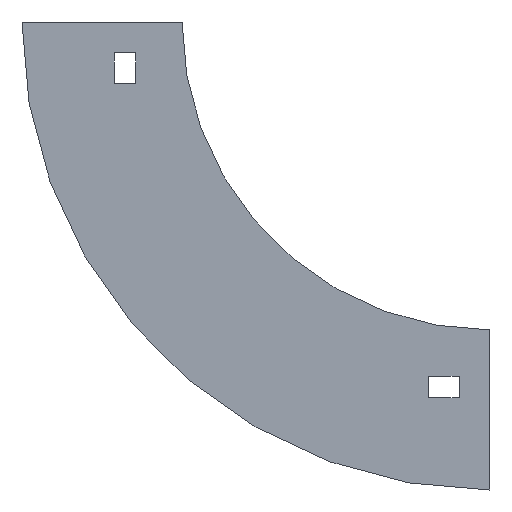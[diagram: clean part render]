
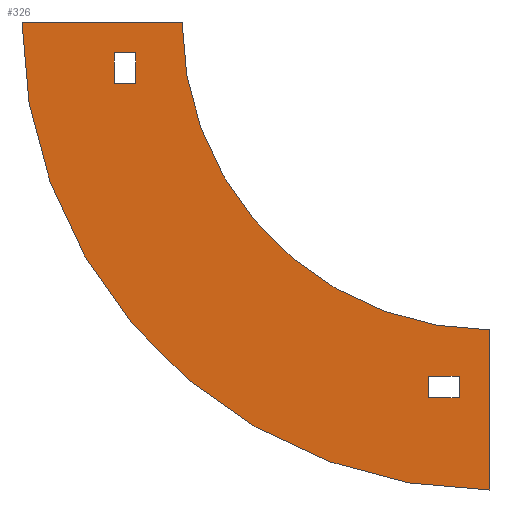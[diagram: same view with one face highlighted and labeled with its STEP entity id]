
A CAD part, left-side view. The second image highlights one B-rep face of the part: STEP entity #326.
In plain terms, the highlighted planar face has unit normal (-1, 0, 0).
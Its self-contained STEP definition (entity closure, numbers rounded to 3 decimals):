
#9 = VECTOR ( 'NONE', #840, 1000. ) ;
#11 = CARTESIAN_POINT ( 'NONE',  ( -202., -100., -100. ) ) ;
#15 = CARTESIAN_POINT ( 'NONE',  ( -202., -90., -122. ) ) ;
#16 = DIRECTION ( 'NONE',  ( 0., 0., -1. ) ) ;
#26 = DIRECTION ( 'NONE',  ( -1., 0., 0. ) ) ;
#27 = VERTEX_POINT ( 'NONE', #11 ) ;
#29 = VECTOR ( 'NONE', #648, 1000. ) ;
#35 = EDGE_CURVE ( 'NONE', #27, #87, #369, .T. ) ;
#48 = CIRCLE ( 'NONE', #994, 100. ) ;
#58 = CARTESIAN_POINT ( 'NONE',  ( -202., 22., -20. ) ) ;
#59 = VERTEX_POINT ( 'NONE', #1084 ) ;
#77 = CARTESIAN_POINT ( 'NONE',  ( -202., -100., 0. ) ) ;
#78 = EDGE_LOOP ( 'NONE', ( #847, #1072, #1042, #937 ) ) ;
#79 = EDGE_CURVE ( 'NONE', #138, #323, #990, .T. ) ;
#87 = VERTEX_POINT ( 'NONE', #479 ) ;
#92 = CARTESIAN_POINT ( 'NONE',  ( -202., -80., -115. ) ) ;
#95 = VERTEX_POINT ( 'NONE', #661 ) ;
#105 = CARTESIAN_POINT ( 'NONE',  ( -202., -80., -122. ) ) ;
#109 = CARTESIAN_POINT ( 'NONE',  ( -202., 52., 0. ) ) ;
#110 = LINE ( 'NONE', #641, #912 ) ;
#121 = DIRECTION ( 'NONE',  ( 0., -1., 0. ) ) ;
#124 = EDGE_CURVE ( 'NONE', #183, #267, #297, .T. ) ;
#135 = VECTOR ( 'NONE', #497, 1000. ) ;
#138 = VERTEX_POINT ( 'NONE', #389 ) ;
#144 = CARTESIAN_POINT ( 'NONE',  ( -202., 15., -10. ) ) ;
#162 = DIRECTION ( 'NONE',  ( 1., 0., 0. ) ) ;
#163 = ORIENTED_EDGE ( 'NONE', *, *, #532, .F. ) ;
#167 = ORIENTED_EDGE ( 'NONE', *, *, #238, .F. ) ;
#182 = CARTESIAN_POINT ( 'NONE',  ( -202., -90., -115. ) ) ;
#183 = VERTEX_POINT ( 'NONE', #58 ) ;
#184 = FACE_BOUND ( 'NONE', #78, .T. ) ;
#199 = DIRECTION ( 'NONE',  ( 0., 0., 1. ) ) ;
#210 = AXIS2_PLACEMENT_3D ( 'NONE', #953, #162, #426 ) ;
#223 = VECTOR ( 'NONE', #1009, 1000. ) ;
#238 = EDGE_CURVE ( 'NONE', #992, #975, #784, .T. ) ;
#240 = CARTESIAN_POINT ( 'NONE',  ( -202., 22., -20. ) ) ;
#243 = VECTOR ( 'NONE', #16, 1000. ) ;
#248 = ORIENTED_EDGE ( 'NONE', *, *, #873, .F. ) ;
#257 = DIRECTION ( 'NONE',  ( -1., 0., 0. ) ) ;
#267 = VERTEX_POINT ( 'NONE', #714 ) ;
#270 = CARTESIAN_POINT ( 'NONE',  ( -202., 0., 0. ) ) ;
#280 = VERTEX_POINT ( 'NONE', #15 ) ;
#296 = CARTESIAN_POINT ( 'NONE',  ( -202., -90., -115. ) ) ;
#297 = LINE ( 'NONE', #578, #223 ) ;
#323 = VERTEX_POINT ( 'NONE', #270 ) ;
#326 = ADVANCED_FACE ( 'NONE', ( #184, #539, #719 ), #619, .T. ) ;
#328 = CARTESIAN_POINT ( 'NONE',  ( -202., -90., -122. ) ) ;
#335 = LINE ( 'NONE', #328, #9 ) ;
#369 = LINE ( 'NONE', #1005, #243 ) ;
#389 = CARTESIAN_POINT ( 'NONE',  ( -202., 52., 0. ) ) ;
#400 = ORIENTED_EDGE ( 'NONE', *, *, #540, .F. ) ;
#426 = DIRECTION ( 'NONE',  ( 0., 0., 1. ) ) ;
#433 = CIRCLE ( 'NONE', #210, 152. ) ;
#457 = EDGE_CURVE ( 'NONE', #975, #280, #335, .T. ) ;
#479 = CARTESIAN_POINT ( 'NONE',  ( -202., -100., -152. ) ) ;
#497 = DIRECTION ( 'NONE',  ( 0., 0., -1. ) ) ;
#521 = ORIENTED_EDGE ( 'NONE', *, *, #79, .F. ) ;
#532 = EDGE_CURVE ( 'NONE', #852, #992, #655, .T. ) ;
#534 = ORIENTED_EDGE ( 'NONE', *, *, #35, .F. ) ;
#539 = FACE_OUTER_BOUND ( 'NONE', #664, .T. ) ;
#540 = EDGE_CURVE ( 'NONE', #280, #852, #572, .T. ) ;
#571 = LINE ( 'NONE', #144, #135 ) ;
#572 = LINE ( 'NONE', #577, #807 ) ;
#577 = CARTESIAN_POINT ( 'NONE',  ( -202., -90., -122. ) ) ;
#578 = CARTESIAN_POINT ( 'NONE',  ( -202., 22., -10. ) ) ;
#619 = PLANE ( 'NONE',  #710 ) ;
#641 = CARTESIAN_POINT ( 'NONE',  ( -202., 22., -10. ) ) ;
#647 = EDGE_LOOP ( 'NONE', ( #163, #400, #1006, #167 ) ) ;
#648 = DIRECTION ( 'NONE',  ( 0., 1., 0. ) ) ;
#655 = LINE ( 'NONE', #296, #29 ) ;
#661 = CARTESIAN_POINT ( 'NONE',  ( -202., 15., -10. ) ) ;
#664 = EDGE_LOOP ( 'NONE', ( #248, #521, #899, #534 ) ) ;
#679 = EDGE_CURVE ( 'NONE', #95, #59, #571, .T. ) ;
#710 = AXIS2_PLACEMENT_3D ( 'NONE', #77, #257, #1137 ) ;
#714 = CARTESIAN_POINT ( 'NONE',  ( -202., 22., -10. ) ) ;
#719 = FACE_BOUND ( 'NONE', #647, .T. ) ;
#741 = EDGE_CURVE ( 'NONE', #87, #138, #433, .T. ) ;
#754 = EDGE_CURVE ( 'NONE', #59, #183, #881, .T. ) ;
#778 = VECTOR ( 'NONE', #121, 1000. ) ;
#784 = LINE ( 'NONE', #894, #973 ) ;
#807 = VECTOR ( 'NONE', #1083, 1000. ) ;
#840 = DIRECTION ( 'NONE',  ( 0., -1., 0. ) ) ;
#847 = ORIENTED_EDGE ( 'NONE', *, *, #900, .T. ) ;
#852 = VERTEX_POINT ( 'NONE', #182 ) ;
#873 = EDGE_CURVE ( 'NONE', #323, #27, #48, .T. ) ;
#881 = LINE ( 'NONE', #240, #1082 ) ;
#894 = CARTESIAN_POINT ( 'NONE',  ( -202., -80., -122. ) ) ;
#898 = CARTESIAN_POINT ( 'NONE',  ( -202., -100., 0. ) ) ;
#899 = ORIENTED_EDGE ( 'NONE', *, *, #741, .F. ) ;
#900 = EDGE_CURVE ( 'NONE', #267, #95, #110, .T. ) ;
#912 = VECTOR ( 'NONE', #1001, 1000. ) ;
#937 = ORIENTED_EDGE ( 'NONE', *, *, #124, .T. ) ;
#941 = DIRECTION ( 'NONE',  ( 0., 1., 0. ) ) ;
#953 = CARTESIAN_POINT ( 'NONE',  ( -202., -100., 0. ) ) ;
#973 = VECTOR ( 'NONE', #1066, 1000. ) ;
#975 = VERTEX_POINT ( 'NONE', #105 ) ;
#990 = LINE ( 'NONE', #109, #778 ) ;
#992 = VERTEX_POINT ( 'NONE', #92 ) ;
#994 = AXIS2_PLACEMENT_3D ( 'NONE', #898, #26, #199 ) ;
#1001 = DIRECTION ( 'NONE',  ( 0., -1., 0. ) ) ;
#1005 = CARTESIAN_POINT ( 'NONE',  ( -202., -100., -100. ) ) ;
#1006 = ORIENTED_EDGE ( 'NONE', *, *, #457, .F. ) ;
#1009 = DIRECTION ( 'NONE',  ( 0., 0., 1. ) ) ;
#1042 = ORIENTED_EDGE ( 'NONE', *, *, #754, .T. ) ;
#1066 = DIRECTION ( 'NONE',  ( 0., 0., -1. ) ) ;
#1072 = ORIENTED_EDGE ( 'NONE', *, *, #679, .T. ) ;
#1082 = VECTOR ( 'NONE', #941, 1000. ) ;
#1083 = DIRECTION ( 'NONE',  ( 0., 0., 1. ) ) ;
#1084 = CARTESIAN_POINT ( 'NONE',  ( -202., 15., -20. ) ) ;
#1137 = DIRECTION ( 'NONE',  ( 0., 0., 1. ) ) ;
